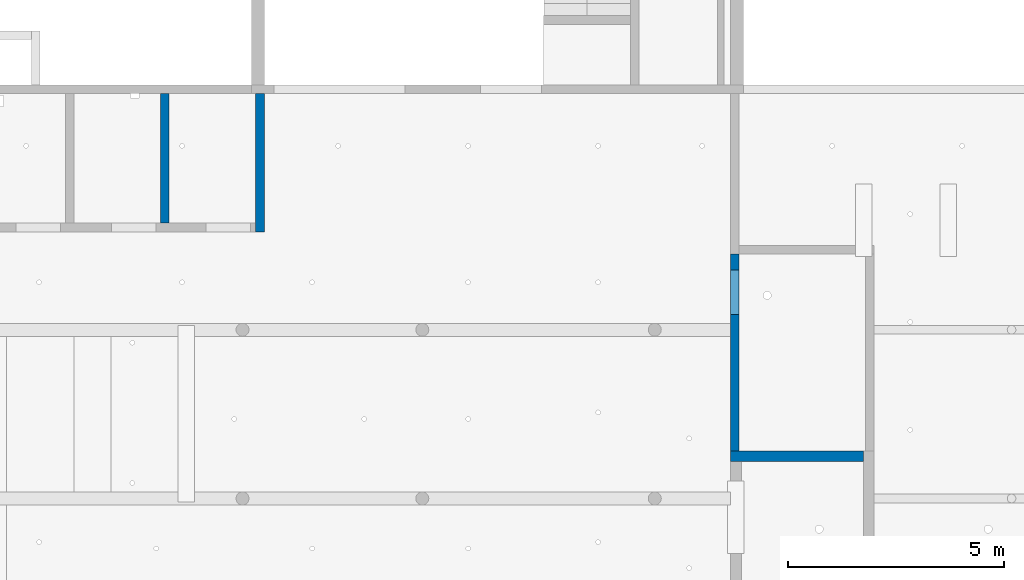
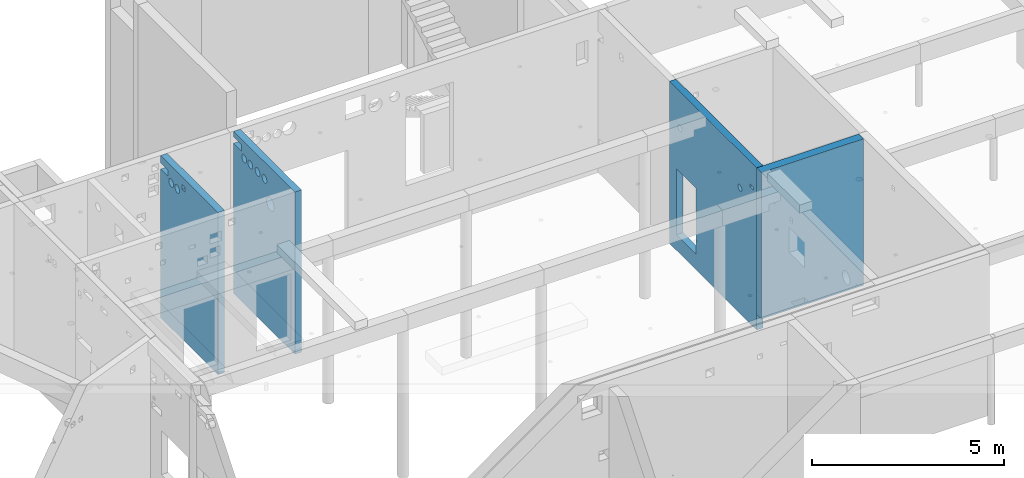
# One storey, part 25 of 28: 4 walls, 15 openings.
"""IFC2X3 building model written with IfcOpenShell, lengths in metres."""

import ifcopenshell
import ifcopenshell.guid

model = None  # the IFC model being written
_history = None  # IfcOwnerHistory: only IFC2X3 demands one
_inside = {}  # id of a spatial element -> (the spatial element, [elements in it])
_under = {}  # id of a project, library or spatial element -> (it, [spatial elements below it])
_declared = {}  # id of a project -> (the project, [libraries it declares])
_typed = {}  # id of a type object -> (the type object, [elements of that type])
_made_of = {}  # id of a material, layer set ... -> (it, [elements and type objects made of it])


def new_model(schema):
    """Start an empty IFC model of exactly this schema.

    Asked for "IFC4X3", IfcOpenShell would pick the latest addendum, in which some entities
    have other attributes; the version numbers below select the first issue.
    IFC2X3 requires an IfcOwnerHistory on every rooted entity: one is made here for all.
    """
    global model, _history
    if schema == "IFC4X3":
        model = ifcopenshell.file(schema_version=(4, 3, 0, 0))
    else:
        model = ifcopenshell.file(schema=schema)
    _inside.clear()
    _under.clear()
    _declared.clear()
    _typed.clear()
    _made_of.clear()
    _history = None
    if model.schema == "IFC2X3":
        org = make("IfcOrganization", Name="unknown")
        user = make(
            "IfcPersonAndOrganization",
            ThePerson=make("IfcPerson", FamilyName="unknown"),
            TheOrganization=org,
        )
        app = make(
            "IfcApplication",
            ApplicationDeveloper=org,
            Version="unknown",
            ApplicationFullName="unknown",
            ApplicationIdentifier="unknown",
        )
        _history = make(
            "IfcOwnerHistory",
            OwningUser=user,
            OwningApplication=app,
            ChangeAction="ADDED",
            CreationDate=0,
        )
    return model


def make(cls, **values):
    """One entity of the class cls with the attributes given. An attribute that is None is left unset."""
    return model.create_entity(
        cls, **{name: value for name, value in values.items() if value is not None}
    )


def entity(cls, *values):
    """Any entity or typed value of the class cls, its attributes in the order of the schema. None: left unset."""
    e = model.create_entity(cls)
    for i, value in enumerate(values):
        if value is not None:
            e[i] = value
    return e


def rooted(cls, **values):
    """An entity with a GlobalId (a new one), such as an element, a storey or a relation."""
    return make(cls, GlobalId=ifcopenshell.guid.new(), OwnerHistory=_history, **values)


def si_unit(unit_type, name, prefix=None):
    """IfcSIUnit, for example si_unit("LENGTHUNIT", "METRE", prefix="MILLI")."""
    return make("IfcSIUnit", UnitType=unit_type, Prefix=prefix, Name=name)


def converted_unit(unit_type, name, factor, base, dimensions=None, offset=None):
    """IfcConversionBasedUnit, such as the inch: factor (a typed value) times the base unit."""
    return make(
        "IfcConversionBasedUnit"
        if offset is None
        else "IfcConversionBasedUnitWithOffset",
        ConversionOffset=offset,
        Dimensions=None
        if dimensions is None
        else entity("IfcDimensionalExponents", *dimensions),
        UnitType=unit_type,
        Name=name,
        ConversionFactor=make(
            "IfcMeasureWithUnit", ValueComponent=factor, UnitComponent=base
        ),
    )


def assignment(units):
    """IfcUnitAssignment: the units of a project."""
    return None if units is None else make("IfcUnitAssignment", Units=units)


def point(xyz):
    """IfcCartesianPoint."""
    return None if xyz is None else make("IfcCartesianPoint", Coordinates=xyz)


def direction(xyz):
    """IfcDirection."""
    return None if xyz is None else make("IfcDirection", DirectionRatios=xyz)


def frame(location, z_axis=None, x_axis=None):
    """IfcAxis2Placement3D, a coordinate frame: its origin and axes. An axis left out is left unset."""
    return make(
        "IfcAxis2Placement3D",
        Location=point(location),
        Axis=direction(z_axis),
        RefDirection=direction(x_axis),
    )


def frame_2d(location, x_axis=None):
    """IfcAxis2Placement2D, a coordinate frame in the plane: its origin and x axis."""
    return make(
        "IfcAxis2Placement2D", Location=point(location), RefDirection=direction(x_axis)
    )


def origin():
    """The frame at (0, 0, 0) with its axes left unset."""
    return frame((0.0, 0.0, 0.0))


def origin_with_axes():
    """The frame at (0, 0, 0) with the z axis (0, 0, 1) and the x axis (1, 0, 0) written out."""
    return frame((0.0, 0.0, 0.0), z_axis=(0.0, 0.0, 1.0), x_axis=(1.0, 0.0, 0.0))


def place(relative_to, where):
    """IfcLocalPlacement: puts the frame where relative to a parent placement (None: the world)."""
    return make(
        "IfcLocalPlacement", PlacementRelTo=relative_to, RelativePlacement=where
    )


def context(
    kind, dimensions, precision=None, world=None, true_north=None, identifier=None
):
    """IfcGeometricRepresentationContext, for example the 3D "Model" context."""
    return make(
        "IfcGeometricRepresentationContext",
        ContextIdentifier=identifier,
        ContextType=kind,
        CoordinateSpaceDimension=dimensions,
        Precision=precision,
        WorldCoordinateSystem=world,
        TrueNorth=true_north,
    )


def subcontext(parent, identifier, kind, view, scale=None):
    """IfcGeometricRepresentationSubContext, for example "Body" below "Model"."""
    return make(
        "IfcGeometricRepresentationSubContext",
        ContextIdentifier=identifier,
        ContextType=kind,
        ParentContext=parent,
        TargetScale=scale,
        TargetView=view,
    )


def project(units=None, contexts=None):
    """IfcProject with its units and contexts."""
    return rooted(
        "IfcProject",
        Name="project",
        RepresentationContexts=contexts,
        UnitsInContext=assignment(units),
    )


def spatial(cls, under=None, at=None, **own):
    """A site, building, storey or space (cls), placed at a placement, below another one or the project."""
    s = rooted(cls, ObjectPlacement=at, **own)
    if under is not None:
        _under.setdefault(under.id(), (under, []))[1].append(s)
    return s


def polyline(points):
    """IfcPolyline through the points."""
    return make("IfcPolyline", Points=[point(p) for p in points])


def profile(cls, at=None, kind="AREA", **sizes):
    """A parametric profile (cls). Its sizes go by their IFC names, for example OverallWidth=200.0."""
    return make(cls, ProfileType=kind, Position=at, **sizes)


def rectangle(**sizes):
    """IfcRectangleProfileDef."""
    return profile("IfcRectangleProfileDef", **sizes)


def outline(outer, holes=None, kind="AREA"):
    """IfcArbitraryClosedProfileDef: a profile drawn as a closed curve; with holes, ...WithVoids."""
    if holes is None:
        return make("IfcArbitraryClosedProfileDef", ProfileType=kind, OuterCurve=outer)
    return make(
        "IfcArbitraryProfileDefWithVoids",
        ProfileType=kind,
        OuterCurve=outer,
        InnerCurves=holes,
    )


def extrude(swept, where, along, depth):
    """IfcExtrudedAreaSolid: the profile swept, set in the frame where, extruded along a direction by depth."""
    return make(
        "IfcExtrudedAreaSolid",
        SweptArea=swept,
        Position=where,
        ExtrudedDirection=direction(along),
        Depth=depth,
    )


def shape(context_of_items, identifier, shape_type, items):
    """IfcShapeRepresentation: the items that make up one representation, for example the "Body"."""
    return make(
        "IfcShapeRepresentation",
        ContextOfItems=context_of_items,
        RepresentationIdentifier=identifier,
        RepresentationType=shape_type,
        Items=items,
    )


def material(Name=None, Category=None):
    """IfcMaterial."""
    return make("IfcMaterial", Name=Name, Category=Category)


def layer(
    of_material, thickness, ventilated=None, Name=None, Category=None, Priority=None
):
    """IfcMaterialLayer: one layer of a wall or slab, of a material (None: an air gap)."""
    return make(
        "IfcMaterialLayer",
        Material=of_material,
        LayerThickness=thickness,
        IsVentilated=ventilated,
        Name=Name,
        Category=Category,
        Priority=Priority,
    )


def layer_set(layers, Name=None):
    """IfcMaterialLayerSet."""
    return make("IfcMaterialLayerSet", MaterialLayers=layers, LayerSetName=Name)


def layer_usage(for_layer_set, set_direction, sense, offset, extent=None):
    """IfcMaterialLayerSetUsage: how a layer set lies in its element."""
    return make(
        "IfcMaterialLayerSetUsage",
        ForLayerSet=for_layer_set,
        LayerSetDirection=set_direction,
        DirectionSense=sense,
        OffsetFromReferenceLine=offset,
        ReferenceExtent=extent,
    )


def made_of(thing, what):
    """Note that an element or type object is made of a material, layer set ...; save() writes the relation."""
    if what is not None:
        _made_of.setdefault(what.id(), (what, []))[1].append(thing)
    return thing


def element(
    cls,
    number,
    at=None,
    inside=None,
    cuts=None,
    type_object=None,
    material=None,
    context=None,
    identifier="Body",
    shape_type=None,
    held_by="IfcProductDefinitionShape",
    body=None,
    shapes=None,
    **own,
):
    """One element of the class cls, such as IfcWall. Its Tag is "e" and its number.

    at: its placement. inside: the storey or other place that contains it. cuts: it is an
    opening in that element (IfcRelVoidsElement). A single representation is given by context,
    identifier, shape_type and body (its items); several are given by shapes. held_by: the class
    of the entity that holds the representations. save() writes the other relations.
    """
    e = rooted(cls, Tag="e%d" % number, ObjectPlacement=at, **own)
    if body is not None:
        shapes = [shape(context, identifier, shape_type, body)]
    if shapes is not None:
        e.Representation = make(held_by, Representations=shapes)
    if inside is not None:
        _inside.setdefault(inside.id(), (inside, []))[1].append(e)
    if cuts is not None:
        rooted(
            "IfcRelVoidsElement", RelatingBuildingElement=cuts, RelatedOpeningElement=e
        )
    if type_object is not None:
        _typed.setdefault(type_object.id(), (type_object, []))[1].append(e)
    return made_of(e, material)


def aggregate(whole, parts):
    """IfcRelAggregates: a whole, such as a stair, and the parts it consists of."""
    return rooted("IfcRelAggregates", RelatingObject=whole, RelatedObjects=parts)


def save(model, path):
    """Write the relations noted so far, then the file.

    IfcRelAggregates (storeys below a building ...), IfcRelContainedInSpatialStructure (elements
    in a storey), IfcRelDefinesByType, IfcRelAssociatesMaterial and IfcRelDeclares: one each for
    every whole, place, type object, material and project.
    """
    for whole, parts in _under.values():
        aggregate(whole, parts)
    for where, things in _inside.values():
        rooted(
            "IfcRelContainedInSpatialStructure",
            RelatedElements=things,
            RelatingStructure=where,
        )
    for kind, things in _typed.values():
        rooted("IfcRelDefinesByType", RelatedObjects=things, RelatingType=kind)
    for what, things in _made_of.values():
        rooted("IfcRelAssociatesMaterial", RelatedObjects=things, RelatingMaterial=what)
    for by, libraries in _declared.values():
        rooted("IfcRelDeclares", RelatingContext=by, RelatedDefinitions=libraries)
    model.write(path)


model = new_model("IFC2X3")

# Units and contexts
model_context = context("Model", 3, precision=1e-05, world=origin(), true_north=direction((-0.407059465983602, -0.913401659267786)))
body_context = subcontext(model_context, "Body", "Model", "MODEL_VIEW")
ifc_project = project(units=[si_unit("LENGTHUNIT", "METRE"), si_unit("AREAUNIT", "SQUARE_METRE"), si_unit("VOLUMEUNIT", "CUBIC_METRE"), si_unit("MASSUNIT", "GRAM", prefix="KILO"), converted_unit("PLANEANGLEUNIT", "DEGREE", entity("IfcPlaneAngleMeasure", 0.0174532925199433), si_unit("PLANEANGLEUNIT", "RADIAN"), dimensions=[0, 0, 0, 0, 0, 0, 0])], contexts=[model_context])

# Site, buildings, storey
site_placement = place(None, origin())
site = spatial("IfcSite", under=ifc_project, at=site_placement, Name="Site", CompositionType="ELEMENT")
building_1_placement = place(site_placement, origin())
building_1 = spatial("IfcBuilding", under=site, at=building_1_placement, Name="Site", CompositionType="COMPLEX")
building_2_placement = place(building_1_placement, origin())
building_2 = spatial("IfcBuilding", under=building_1, at=building_2_placement, Name="Bâtiments", CompositionType="ELEMENT")
storey_placement = place(building_2_placement, frame((0.0, 0.0, -5.3)))
storey = spatial("IfcBuildingStorey", under=building_2, at=storey_placement, Name="SOUS-SOL", CompositionType="ELEMENT", Elevation=-5.3)

# Wall
ifc_material_1 = material(Name="Béton")
ifc_layer_1 = layer(ifc_material_1, 0.25)
ifc_layer_set_1 = layer_set([ifc_layer_1])
ifc_layer_usage_1 = layer_usage(ifc_layer_set_1, "AXIS2", "POSITIVE", -0.1)
wall_1_placement = place(storey_placement, frame((45.2426440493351, 0.703810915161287, 0.5), z_axis=(0.0, 0.0, 1.0), x_axis=(1.0, -7.40135930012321e-16, 0.0)))
element("IfcWallStandardCase", 1, at=wall_1_placement, inside=storey, material=ifc_layer_usage_1, context=body_context, shape_type="SweptSolid", body=[
    extrude(rectangle(XDim=3.07205293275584, YDim=0.25, at=frame_2d((1.53602646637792, 0.125), x_axis=(1.0, 0.0))), origin_with_axes(), (0.0, 0.0, 1.0), 4.66),
])

# Wall, openings
ifc_material_2 = material(Name="Béton")
ifc_layer_2 = layer(ifc_material_2, 0.2)
ifc_layer_set_2 = layer_set([ifc_layer_2])
ifc_layer_usage_2 = layer_usage(ifc_layer_set_2, "AXIS2", "POSITIVE", -0.1)
wall_2_placement = place(storey_placement, frame((34.4680907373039, 6.01706783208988, 0.0), z_axis=(0.0, 0.0, 1.0), x_axis=(0.0, 1.0, 0.0)))
wall_2 = element("IfcWallStandardCase", 2, at=wall_2_placement, inside=storey, material=ifc_layer_usage_2, context=body_context, shape_type="SweptSolid", body=[
    extrude(rectangle(XDim=3.19331947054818, YDim=0.2, at=frame_2d((1.59665973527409, 0.1), x_axis=(1.0, 0.0))), origin_with_axes(), (0.0, 0.0, 1.0), 5.16),
])
opening_1_placement = place(wall_2_placement, frame((1.07527756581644, 0.0, 3.8), z_axis=(0.0, 1.0, 0.0), x_axis=(0.0, 0.0, 1.0)))
element("IfcOpeningElement", 3, at=opening_1_placement, cuts=wall_2, Name="CVC-077", ObjectType="Opening", context=body_context, shape_type="SweptSolid", body=[
    extrude(outline(polyline([(0.199999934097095, 0.0), (0.179094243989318, 0.00109562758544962), (0.1584176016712, 0.00437049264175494), (0.138196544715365, 0.00978871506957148), (0.118652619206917, 0.0172909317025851), (0.0999999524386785, 0.026794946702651), (0.0824429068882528, 0.0381966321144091), (0.0661738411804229, 0.0513710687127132), (0.0513710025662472, 0.0661739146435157), (0.0381965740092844, 0.0824429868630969), (0.0267948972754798, 0.100000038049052), (0.0172908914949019, 0.118652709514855), (0.00978868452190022, 0.138196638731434), (0.00437047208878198, 0.158417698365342), (0.00109561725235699, 0.179094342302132), (0.0, 0.200000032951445), (0.00109562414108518, 0.220905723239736), (0.00437048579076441, 0.241582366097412), (0.009788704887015, 0.261803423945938), (0.0172909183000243, 0.281347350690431), (0.0267949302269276, 0.300000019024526), (0.0381966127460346, 0.317557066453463), (0.051371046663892, 0.333826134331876), (0.0661738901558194, 0.348628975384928), (0.0824429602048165, 0.361803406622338), (0.100000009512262, 0.373205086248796), (0.11865267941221, 0.382709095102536), (0.138196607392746, 0.390211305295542), (0.158417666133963, 0.395629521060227), (0.179094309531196, 0.398904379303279), (0.199999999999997, 0.4), (0.220905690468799, 0.398904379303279), (0.241582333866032, 0.395629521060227), (0.261803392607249, 0.390211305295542), (0.281347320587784, 0.382709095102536), (0.299999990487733, 0.373205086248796), (0.317557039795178, 0.361803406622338), (0.333826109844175, 0.348628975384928), (0.348628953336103, 0.333826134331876), (0.36180338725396, 0.317557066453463), (0.373205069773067, 0.300000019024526), (0.38270908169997, 0.281347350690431), (0.39021129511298, 0.261803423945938), (0.39562951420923, 0.241582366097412), (0.398904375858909, 0.220905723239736), (0.399999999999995, 0.200000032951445), (0.398904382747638, 0.179094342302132), (0.395629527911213, 0.158417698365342), (0.390211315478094, 0.138196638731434), (0.382709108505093, 0.118652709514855), (0.373205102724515, 0.100000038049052), (0.36180342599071, 0.0824429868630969), (0.348628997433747, 0.0661739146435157), (0.333826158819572, 0.0513710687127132), (0.317557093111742, 0.0381966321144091), (0.300000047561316, 0.026794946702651), (0.281347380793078, 0.0172909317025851), (0.26180345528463, 0.00978871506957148), (0.241582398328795, 0.00437049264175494), (0.220905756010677, 0.00109562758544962), (0.199999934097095, 0.0)])), origin_with_axes(), (0.0, 0.0, 1.0), 0.2),
])
opening_2_placement = place(wall_2_placement, frame((1.46013137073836, 3.49065085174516e-08, 4.5), z_axis=(0.0, 1.0, 0.0), x_axis=(0.0, 0.0, 1.0)))
element("IfcOpeningElement", 4, at=opening_2_placement, cuts=wall_2, Name="CVC-076", ObjectType="Opening", context=body_context, shape_type="SweptSolid", body=[
    extrude(outline(polyline([(0.124999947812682, 0.0), (0.111933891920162, 0.000684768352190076), (0.0990109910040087, 0.00273156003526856), (0.086372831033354, 0.00611794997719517), (0.0741578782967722, 0.0108068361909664), (0.0624999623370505, 0.0167468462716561), (0.0515268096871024, 0.0238729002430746), (0.0413586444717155, 0.0321069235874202), (0.0321068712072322, 0.041358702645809), (0.0238728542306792, 0.0515268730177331), (0.0167468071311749, 0.0625000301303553), (0.0108068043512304, 0.0741579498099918), (0.00611792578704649, 0.0863729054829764), (0.00273154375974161, 0.099011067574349), (0.000684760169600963, 0.111933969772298), (0.0, 0.125000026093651), (0.000684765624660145, 0.138066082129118), (0.00273155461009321, 0.150988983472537), (0.00611794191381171, 0.163627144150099), (0.010806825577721, 0.175842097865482), (0.0167468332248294, 0.187500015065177), (0.0238728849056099, 0.198473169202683), (0.0321069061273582, 0.208641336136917), (0.0413586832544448, 0.217893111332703), (0.0515268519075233, 0.226127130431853), (0.0625000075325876, 0.233253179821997), (0.0741579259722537, 0.239193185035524), (0.0863728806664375, 0.24388206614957), (0.0990110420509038, 0.247268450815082), (0.111933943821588, 0.24931523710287), (0.124999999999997, 0.25), (0.138066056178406, 0.24931523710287), (0.150988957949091, 0.247268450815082), (0.163627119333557, 0.24388206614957), (0.175842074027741, 0.239193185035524), (0.187499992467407, 0.233253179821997), (0.198473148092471, 0.226127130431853), (0.20864131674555, 0.217893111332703), (0.217893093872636, 0.208641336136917), (0.226127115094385, 0.198473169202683), (0.233253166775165, 0.187500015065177), (0.239193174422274, 0.175842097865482), (0.243882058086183, 0.163627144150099), (0.247268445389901, 0.150988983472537), (0.249315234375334, 0.138066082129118), (0.249999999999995, 0.125000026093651), (0.249315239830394, 0.111933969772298), (0.247268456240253, 0.099011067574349), (0.243882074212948, 0.0863729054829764), (0.239193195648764, 0.0741579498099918), (0.23325319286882, 0.0625000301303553), (0.226127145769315, 0.0515268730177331), (0.217893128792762, 0.041358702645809), (0.208641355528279, 0.0321069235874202), (0.198473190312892, 0.0238729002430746), (0.187500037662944, 0.0167468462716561), (0.175842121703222, 0.0108068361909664), (0.163627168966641, 0.00611794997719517), (0.150989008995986, 0.00273156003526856), (0.138066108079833, 0.000684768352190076), (0.124999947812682, 0.0)])), origin_with_axes(), (0.0, 0.0, 1.0), 0.2),
])
opening_3_placement = place(wall_2_placement, frame((1.82089109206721, 0.0, 4.5), z_axis=(0.0, 1.0, 0.0), x_axis=(0.0, 0.0, 1.0)))
element("IfcOpeningElement", 5, at=opening_3_placement, cuts=wall_2, Name="CVC-075", ObjectType="Opening", context=body_context, shape_type="SweptSolid", body=[
    extrude(outline(polyline([(0.124999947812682, 0.0), (0.111933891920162, 0.000684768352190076), (0.0990109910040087, 0.00273156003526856), (0.086372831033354, 0.00611794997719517), (0.0741578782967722, 0.0108068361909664), (0.0624999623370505, 0.0167468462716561), (0.0515268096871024, 0.0238729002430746), (0.0413586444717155, 0.0321069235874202), (0.0321068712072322, 0.0413587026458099), (0.0238728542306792, 0.0515268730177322), (0.0167468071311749, 0.0625000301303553), (0.0108068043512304, 0.0741579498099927), (0.00611792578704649, 0.0863729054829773), (0.00273154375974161, 0.099011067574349), (0.000684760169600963, 0.111933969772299), (0.0, 0.125000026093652), (0.000684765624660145, 0.138066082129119), (0.00273155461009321, 0.150988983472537), (0.00611794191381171, 0.163627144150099), (0.010806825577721, 0.175842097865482), (0.0167468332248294, 0.187500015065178), (0.0238728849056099, 0.198473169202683), (0.0321069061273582, 0.208641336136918), (0.0413586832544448, 0.217893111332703), (0.0515268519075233, 0.226127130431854), (0.0625000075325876, 0.233253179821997), (0.0741579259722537, 0.239193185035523), (0.0863728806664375, 0.24388206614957), (0.0990110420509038, 0.247268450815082), (0.111933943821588, 0.249315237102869), (0.124999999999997, 0.25), (0.138066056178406, 0.249315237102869), (0.150988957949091, 0.247268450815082), (0.163627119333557, 0.24388206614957), (0.175842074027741, 0.239193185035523), (0.187499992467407, 0.233253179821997), (0.198473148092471, 0.226127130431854), (0.20864131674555, 0.217893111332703), (0.217893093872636, 0.208641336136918), (0.226127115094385, 0.198473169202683), (0.233253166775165, 0.187500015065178), (0.239193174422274, 0.175842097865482), (0.243882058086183, 0.163627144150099), (0.247268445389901, 0.150988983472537), (0.249315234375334, 0.138066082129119), (0.249999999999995, 0.125000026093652), (0.249315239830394, 0.111933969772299), (0.247268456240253, 0.099011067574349), (0.243882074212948, 0.0863729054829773), (0.239193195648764, 0.0741579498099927), (0.23325319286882, 0.0625000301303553), (0.226127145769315, 0.0515268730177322), (0.217893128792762, 0.0413587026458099), (0.208641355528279, 0.0321069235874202), (0.198473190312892, 0.0238729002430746), (0.187500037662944, 0.0167468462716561), (0.175842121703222, 0.0108068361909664), (0.163627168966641, 0.00611794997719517), (0.150989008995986, 0.00273156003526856), (0.138066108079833, 0.000684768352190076), (0.124999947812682, 0.0)])), origin_with_axes(), (0.0, 0.0, 1.0), 0.2),
])
opening_4_placement = place(wall_2_placement, frame((2.20089109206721, 0.0, 4.5), z_axis=(0.0, 1.0, 0.0), x_axis=(0.0, 0.0, 1.0)))
element("IfcOpeningElement", 6, at=opening_4_placement, cuts=wall_2, Name="CVC-074", ObjectType="Opening", context=body_context, shape_type="SweptSolid", body=[
    extrude(outline(polyline([(0.124999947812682, 0.0), (0.111933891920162, 0.000684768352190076), (0.0990109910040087, 0.00273156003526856), (0.086372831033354, 0.00611794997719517), (0.0741578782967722, 0.0108068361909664), (0.0624999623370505, 0.0167468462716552), (0.0515268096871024, 0.0238729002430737), (0.0413586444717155, 0.0321069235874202), (0.0321068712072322, 0.0413587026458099), (0.0238728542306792, 0.0515268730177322), (0.0167468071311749, 0.0625000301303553), (0.0108068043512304, 0.0741579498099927), (0.00611792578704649, 0.0863729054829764), (0.00273154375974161, 0.099011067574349), (0.000684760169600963, 0.111933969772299), (0.0, 0.125000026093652), (0.000684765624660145, 0.138066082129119), (0.00273155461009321, 0.150988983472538), (0.00611794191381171, 0.163627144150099), (0.010806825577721, 0.175842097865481), (0.0167468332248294, 0.187500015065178), (0.0238728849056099, 0.198473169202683), (0.0321069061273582, 0.208641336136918), (0.0413586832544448, 0.217893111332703), (0.0515268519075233, 0.226127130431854), (0.0625000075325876, 0.233253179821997), (0.0741579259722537, 0.239193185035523), (0.0863728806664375, 0.24388206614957), (0.0990110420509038, 0.247268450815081), (0.111933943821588, 0.24931523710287), (0.124999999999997, 0.25), (0.138066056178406, 0.24931523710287), (0.150988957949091, 0.247268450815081), (0.163627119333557, 0.24388206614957), (0.175842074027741, 0.239193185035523), (0.187499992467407, 0.233253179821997), (0.198473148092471, 0.226127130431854), (0.20864131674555, 0.217893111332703), (0.217893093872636, 0.208641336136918), (0.226127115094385, 0.198473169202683), (0.233253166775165, 0.187500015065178), (0.239193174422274, 0.175842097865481), (0.243882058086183, 0.163627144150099), (0.247268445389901, 0.150988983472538), (0.249315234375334, 0.138066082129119), (0.249999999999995, 0.125000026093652), (0.249315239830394, 0.111933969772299), (0.247268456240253, 0.099011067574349), (0.243882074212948, 0.0863729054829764), (0.239193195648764, 0.0741579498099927), (0.23325319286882, 0.0625000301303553), (0.226127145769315, 0.0515268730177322), (0.217893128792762, 0.0413587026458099), (0.208641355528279, 0.0321069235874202), (0.198473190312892, 0.0238729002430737), (0.187500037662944, 0.0167468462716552), (0.175842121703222, 0.0108068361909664), (0.163627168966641, 0.00611794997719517), (0.150989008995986, 0.00273156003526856), (0.138066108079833, 0.000684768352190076), (0.124999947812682, 0.0)])), origin_with_axes(), (0.0, 0.0, 1.0), 0.2),
])
opening_5_placement = place(wall_2_placement, frame((2.51708956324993, 0.0, 4.5), z_axis=(0.0, 1.0, 0.0), x_axis=(0.0, 0.0, 1.0)))
element("IfcOpeningElement", 7, at=opening_5_placement, cuts=wall_2, Name="CVC-073", ObjectType="Opening", context=body_context, shape_type="SweptSolid", body=[
    extrude(outline(polyline([(0.124999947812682, 0.0), (0.111933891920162, 0.000684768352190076), (0.0990109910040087, 0.00273156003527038), (0.086372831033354, 0.00611794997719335), (0.0741578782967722, 0.0108068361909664), (0.0624999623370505, 0.0167468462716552), (0.0515268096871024, 0.0238729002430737), (0.0413586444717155, 0.0321069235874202), (0.0321068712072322, 0.0413587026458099), (0.0238728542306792, 0.0515268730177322), (0.0167468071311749, 0.0625000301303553), (0.0108068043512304, 0.0741579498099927), (0.00611792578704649, 0.0863729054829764), (0.00273154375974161, 0.099011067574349), (0.000684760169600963, 0.111933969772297), (0.0, 0.125000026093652), (0.000684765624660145, 0.138066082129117), (0.00273155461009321, 0.150988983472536), (0.00611794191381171, 0.163627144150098), (0.010806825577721, 0.175842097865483), (0.0167468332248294, 0.187500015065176), (0.0238728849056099, 0.198473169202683), (0.0321069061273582, 0.208641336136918), (0.0413586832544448, 0.217893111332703), (0.0515268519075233, 0.226127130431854), (0.0625000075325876, 0.233253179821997), (0.0741579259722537, 0.239193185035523), (0.0863728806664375, 0.24388206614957), (0.0990110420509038, 0.247268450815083), (0.111933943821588, 0.24931523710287), (0.124999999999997, 0.25), (0.138066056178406, 0.24931523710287), (0.150988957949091, 0.247268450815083), (0.163627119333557, 0.24388206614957), (0.175842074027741, 0.239193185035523), (0.187499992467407, 0.233253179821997), (0.198473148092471, 0.226127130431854), (0.20864131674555, 0.217893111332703), (0.217893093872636, 0.208641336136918), (0.226127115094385, 0.198473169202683), (0.233253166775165, 0.187500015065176), (0.239193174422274, 0.175842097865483), (0.243882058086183, 0.163627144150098), (0.247268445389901, 0.150988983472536), (0.249315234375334, 0.138066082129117), (0.249999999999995, 0.125000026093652), (0.249315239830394, 0.111933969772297), (0.247268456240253, 0.099011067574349), (0.243882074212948, 0.0863729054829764), (0.239193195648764, 0.0741579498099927), (0.23325319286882, 0.0625000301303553), (0.226127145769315, 0.0515268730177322), (0.217893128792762, 0.0413587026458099), (0.208641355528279, 0.0321069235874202), (0.198473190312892, 0.0238729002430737), (0.187500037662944, 0.0167468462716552), (0.175842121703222, 0.0108068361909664), (0.163627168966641, 0.00611794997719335), (0.150989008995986, 0.00273156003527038), (0.138066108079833, 0.000684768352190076), (0.124999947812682, 0.0)])), origin_with_axes(), (0.0, 0.0, 1.0), 0.2),
])
opening_6_placement = place(wall_2_placement, frame((2.79331947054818, 0.0, 4.78), z_axis=(0.0, 1.0, 0.0), x_axis=(0.0, 0.0, 1.0)))
element("IfcOpeningElement", 8, at=opening_6_placement, cuts=wall_2, Name="TE-026", ObjectType="Opening", context=body_context, shape_type="SweptSolid", body=[
    extrude(outline(polyline([(0.0, 0.4), (0.2, 0.4), (0.2, 0.0), (0.0, 0.0), (0.0, 0.4)])), origin_with_axes(), (0.0, 0.0, 1.0), 0.2),
])

ifc_material_3 = material(Name="Béton")
ifc_layer_3 = layer(ifc_material_3, 0.200000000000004)
ifc_layer_set_3 = layer_set([ifc_layer_3])
ifc_layer_usage_3 = layer_usage(ifc_layer_set_3, "AXIS2", "POSITIVE", -0.1)
wall_3_placement = place(storey_placement, frame((32.2688387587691, 6.21706783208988, 0.0), z_axis=(0.0, 0.0, 1.0), x_axis=(0.0, 1.0, 0.0)))
wall_3 = element("IfcWallStandardCase", 9, at=wall_3_placement, inside=storey, material=ifc_layer_usage_3, context=body_context, shape_type="SweptSolid", body=[
    extrude(rectangle(XDim=2.99331947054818, YDim=0.200000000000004, at=frame_2d((1.49665973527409, 0.100000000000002), x_axis=(1.0, 0.0))), origin_with_axes(), (0.0, 0.0, 1.0), 5.16),
])
opening_7_placement = place(wall_3_placement, frame((2.79331947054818, 0.0, 4.73), z_axis=(0.0, 1.0, 0.0), x_axis=(0.0, 0.0, 1.0)))
element("IfcOpeningElement", 10, at=opening_7_placement, cuts=wall_3, Name="TE-024", ObjectType="Opening", context=body_context, shape_type="SweptSolid", body=[
    extrude(outline(polyline([(0.0, 0.2), (0.2, 0.2), (0.2, 0.0), (0.0, 0.0), (0.0, 0.2)])), origin_with_axes(), (0.0, 0.0, 1.0), 0.200000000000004),
])
opening_8_placement = place(wall_3_placement, frame((2.00089109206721, 0.0, 4.5), z_axis=(0.0, 1.0, 0.0), x_axis=(0.0, 0.0, 1.0)))
element("IfcOpeningElement", 11, at=opening_8_placement, cuts=wall_3, Name="CVC-071", ObjectType="Opening", context=body_context, shape_type="SweptSolid", body=[
    extrude(outline(polyline([(0.124999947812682, 0.0), (0.111933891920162, 0.000684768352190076), (0.0990109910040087, 0.00273156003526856), (0.086372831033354, 0.00611794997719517), (0.0741578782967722, 0.0108068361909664), (0.0624999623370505, 0.0167468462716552), (0.0515268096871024, 0.0238729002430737), (0.0413586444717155, 0.0321069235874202), (0.0321068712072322, 0.0413587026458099), (0.0238728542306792, 0.0515268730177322), (0.0167468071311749, 0.0625000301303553), (0.0108068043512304, 0.0741579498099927), (0.00611792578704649, 0.0863729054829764), (0.00273154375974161, 0.099011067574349), (0.000684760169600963, 0.111933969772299), (0.0, 0.125000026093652), (0.000684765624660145, 0.138066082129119), (0.00273155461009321, 0.150988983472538), (0.00611794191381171, 0.163627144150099), (0.010806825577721, 0.175842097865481), (0.0167468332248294, 0.187500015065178), (0.0238728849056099, 0.198473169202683), (0.0321069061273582, 0.208641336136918), (0.0413586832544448, 0.217893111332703), (0.0515268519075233, 0.226127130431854), (0.0625000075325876, 0.233253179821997), (0.0741579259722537, 0.239193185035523), (0.0863728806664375, 0.24388206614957), (0.0990110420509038, 0.247268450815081), (0.111933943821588, 0.24931523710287), (0.124999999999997, 0.25), (0.138066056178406, 0.24931523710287), (0.150988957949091, 0.247268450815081), (0.163627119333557, 0.24388206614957), (0.175842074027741, 0.239193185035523), (0.187499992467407, 0.233253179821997), (0.198473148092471, 0.226127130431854), (0.20864131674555, 0.217893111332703), (0.217893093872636, 0.208641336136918), (0.226127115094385, 0.198473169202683), (0.233253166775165, 0.187500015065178), (0.239193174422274, 0.175842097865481), (0.243882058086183, 0.163627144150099), (0.247268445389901, 0.150988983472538), (0.249315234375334, 0.138066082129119), (0.249999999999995, 0.125000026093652), (0.249315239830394, 0.111933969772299), (0.247268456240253, 0.099011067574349), (0.243882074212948, 0.0863729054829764), (0.239193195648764, 0.0741579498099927), (0.23325319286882, 0.0625000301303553), (0.226127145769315, 0.0515268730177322), (0.217893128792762, 0.0413587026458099), (0.208641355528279, 0.0321069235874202), (0.198473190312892, 0.0238729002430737), (0.187500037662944, 0.0167468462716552), (0.175842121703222, 0.0108068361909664), (0.163627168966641, 0.00611794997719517), (0.150989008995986, 0.00273156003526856), (0.138066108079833, 0.000684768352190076), (0.124999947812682, 0.0)])), origin_with_axes(), (0.0, 0.0, 1.0), 0.2),
])
opening_9_placement = place(wall_3_placement, frame((2.31708956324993, 0.0, 4.5), z_axis=(0.0, 1.0, 0.0), x_axis=(0.0, 0.0, 1.0)))
element("IfcOpeningElement", 12, at=opening_9_placement, cuts=wall_3, Name="CVC-072", ObjectType="Opening", context=body_context, shape_type="SweptSolid", body=[
    extrude(outline(polyline([(0.124999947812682, 0.0), (0.111933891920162, 0.000684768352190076), (0.0990109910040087, 0.00273156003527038), (0.086372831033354, 0.00611794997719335), (0.0741578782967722, 0.0108068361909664), (0.0624999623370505, 0.0167468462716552), (0.0515268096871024, 0.0238729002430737), (0.0413586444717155, 0.0321069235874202), (0.0321068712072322, 0.0413587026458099), (0.0238728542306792, 0.0515268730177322), (0.0167468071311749, 0.0625000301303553), (0.0108068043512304, 0.0741579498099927), (0.00611792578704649, 0.0863729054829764), (0.00273154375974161, 0.099011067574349), (0.000684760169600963, 0.111933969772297), (0.0, 0.125000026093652), (0.000684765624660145, 0.138066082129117), (0.00273155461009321, 0.150988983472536), (0.00611794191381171, 0.163627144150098), (0.010806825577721, 0.175842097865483), (0.0167468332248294, 0.187500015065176), (0.0238728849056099, 0.198473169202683), (0.0321069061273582, 0.208641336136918), (0.0413586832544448, 0.217893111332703), (0.0515268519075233, 0.226127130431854), (0.0625000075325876, 0.233253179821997), (0.0741579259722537, 0.239193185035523), (0.0863728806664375, 0.24388206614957), (0.0990110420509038, 0.247268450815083), (0.111933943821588, 0.24931523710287), (0.124999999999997, 0.25), (0.138066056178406, 0.24931523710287), (0.150988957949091, 0.247268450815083), (0.163627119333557, 0.24388206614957), (0.175842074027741, 0.239193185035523), (0.187499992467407, 0.233253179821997), (0.198473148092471, 0.226127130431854), (0.20864131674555, 0.217893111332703), (0.217893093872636, 0.208641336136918), (0.226127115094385, 0.198473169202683), (0.233253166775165, 0.187500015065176), (0.239193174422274, 0.175842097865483), (0.243882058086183, 0.163627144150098), (0.247268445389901, 0.150988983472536), (0.249315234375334, 0.138066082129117), (0.249999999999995, 0.125000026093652), (0.249315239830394, 0.111933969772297), (0.247268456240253, 0.099011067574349), (0.243882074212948, 0.0863729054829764), (0.239193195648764, 0.0741579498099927), (0.23325319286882, 0.0625000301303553), (0.226127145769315, 0.0515268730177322), (0.217893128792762, 0.0413587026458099), (0.208641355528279, 0.0321069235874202), (0.198473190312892, 0.0238729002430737), (0.187500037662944, 0.0167468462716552), (0.175842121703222, 0.0108068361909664), (0.163627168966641, 0.00611794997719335), (0.150989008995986, 0.00273156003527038), (0.138066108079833, 0.000684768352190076), (0.124999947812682, 0.0)])), origin_with_axes(), (0.0, 0.0, 1.0), 0.200000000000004),
])
opening_10_placement = place(wall_3_placement, frame((2.59331947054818, 0.0, 4.73), z_axis=(0.0, 1.0, 0.0), x_axis=(0.0, 0.0, 1.0)))
element("IfcOpeningElement", 13, at=opening_10_placement, cuts=wall_3, Name="TE-025", ObjectType="Opening", context=body_context, shape_type="SweptSolid", body=[
    extrude(outline(polyline([(0.0, 0.2), (0.2, 0.2), (0.2, 0.0), (0.0, 0.0), (0.0, 0.2)])), origin_with_axes(), (0.0, 0.0, 1.0), 0.200000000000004),
])
opening_11_placement = place(wall_3_placement, frame((1.71427394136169, 0.0, 4.77), z_axis=(0.0, 1.0, 0.0), x_axis=(0.0, 0.0, 1.0)))
element("IfcOpeningElement", 14, at=opening_11_placement, cuts=wall_3, Name="PB-010", ObjectType="Opening", context=body_context, shape_type="SweptSolid", body=[
    extrude(outline(polyline([(0.0, 0.15), (0.15, 0.15), (0.15, 0.0), (0.0, 0.0), (0.0, 0.15)])), origin_with_axes(), (0.0, 0.0, 1.0), 0.200000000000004),
])

ifc_material_4 = material(Name="Béton")
ifc_layer_4 = layer(ifc_material_4, 0.199998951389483)
ifc_layer_set_4 = layer_set([ifc_layer_4])
ifc_layer_usage_4 = layer_usage(ifc_layer_set_4, "AXIS2", "POSITIVE", 0.0)
wall_4_placement = place(storey_placement, frame((45.4426440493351, 0.953810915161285, 0.0), z_axis=(0.0, 0.0, 1.0), x_axis=(-1.6009925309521e-15, 1.0, 0.0)))
wall_4 = element("IfcWallStandardCase", 15, at=wall_4_placement, inside=storey, material=ifc_layer_usage_4, context=body_context, shape_type="SweptSolid", body=[
    extrude(outline(polyline([(-3.20198506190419e-16, -0.2), (4.54465431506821, -0.2), (4.54465431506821, -1.048610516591e-06), (2.27373675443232e-16, -3.64023556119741e-31), (-3.20198506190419e-16, -0.2)])), frame((3.20198506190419e-16, 0.2, 0.0), z_axis=(0.0, 0.0, 1.0), x_axis=(1.0, 0.0, 0.0)), (0.0, 0.0, 1.0), 5.16),
])
opening_12_placement = place(wall_4_placement, frame((0.766745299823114, -1.22755349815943e-15, 3.9), z_axis=(1.70530256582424e-15, 1.0, 0.0), x_axis=(0.0, 0.0, 1.0)))
element("IfcOpeningElement", 16, at=opening_12_placement, cuts=wall_4, Name="CVC-057", ObjectType="Opening", context=body_context, shape_type="SweptSolid", body=[
    extrude(outline(polyline([(0.0999999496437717, 0.0), (0.0895471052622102, 0.000547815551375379), (0.0792087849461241, 0.002185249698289), (0.069098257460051, 0.00489436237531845), (0.0593262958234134, 0.00864547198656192), (0.0499999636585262, 0.013397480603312), (0.0412214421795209, 0.0190983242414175), (0.0330869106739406, 0.025685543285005), (0.0256854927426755, 0.0330869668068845), (0.0190982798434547, 0.0412215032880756), (0.0133974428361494, 0.0500000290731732), (0.00864544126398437, 0.0593263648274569), (0.00489433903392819, 0.0690983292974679), (0.00218523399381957, 0.0792088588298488), (0.000547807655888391, 0.0895471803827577), (0.0, 0.100000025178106), (0.000547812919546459, 0.110452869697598), (0.00218524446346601, 0.120791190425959), (0.00489435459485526, 0.130901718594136), (0.00864546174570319, 0.140673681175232), (0.0133974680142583, 0.150000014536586), (0.0190983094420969, 0.158778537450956), (0.0256855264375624, 0.166913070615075), (0.0330869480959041, 0.174314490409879), (0.041221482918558, 0.180901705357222), (0.0500000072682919, 0.186602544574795), (0.0593263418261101, 0.191354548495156), (0.0690983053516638, 0.195105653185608), (0.0792088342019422, 0.197814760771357), (0.0895471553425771, 0.199452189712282), (0.0999999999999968, 0.2), (0.110452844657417, 0.199452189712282), (0.120791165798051, 0.197814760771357), (0.13090169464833, 0.195105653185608), (0.140673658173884, 0.191354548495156), (0.149999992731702, 0.186602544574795), (0.158778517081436, 0.180901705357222), (0.16691305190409, 0.174314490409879), (0.174314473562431, 0.166913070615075), (0.180901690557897, 0.158778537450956), (0.186602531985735, 0.150000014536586), (0.19135453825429, 0.140673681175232), (0.195105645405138, 0.130901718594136), (0.197814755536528, 0.120791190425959), (0.199452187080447, 0.110452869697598), (0.199999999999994, 0.100000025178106), (0.199452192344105, 0.0895471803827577), (0.197814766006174, 0.0792088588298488), (0.195105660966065, 0.0690983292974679), (0.191354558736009, 0.0593263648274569), (0.186602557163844, 0.0500000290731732), (0.180901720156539, 0.0412215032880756), (0.174314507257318, 0.0330869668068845), (0.166913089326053, 0.025685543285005), (0.158778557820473, 0.0190983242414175), (0.150000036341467, 0.013397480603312), (0.14067370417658, 0.00864547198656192), (0.130901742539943, 0.00489436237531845), (0.12079121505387, 0.002185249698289), (0.110452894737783, 0.000547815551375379), (0.0999999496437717, 0.0)])), origin_with_axes(), (0.0, 0.0, 1.0), 0.2),
])
opening_13_placement = place(wall_4_placement, frame((0.151036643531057, -2.41808538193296e-16, 4.35), z_axis=(1.56319401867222e-15, 1.0, 0.0), x_axis=(0.0, 0.0, 1.0)))
element("IfcOpeningElement", 17, at=opening_13_placement, cuts=wall_4, Name="PB-053", ObjectType="Opening", context=body_context, shape_type="SweptSolid", body=[
    extrude(outline(polyline([(0.0, 0.2), (0.1, 0.2), (0.1, 0.0), (0.0, 0.0), (0.0, 0.2)])), origin_with_axes(), (0.0, 0.0, 1.0), 0.2),
])
opening_14_placement = place(wall_4_placement, frame((4.17917420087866, 0.199999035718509, 0.5), z_axis=(-2.30734934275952e-07, -0.999999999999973, 0.0), x_axis=(0.0, 0.0, 1.0)))
element("IfcOpeningElement", 18, at=opening_14_placement, cuts=wall_4, Name="Baie de porte", ObjectType="Opening", context=body_context, shape_type="SweptSolid", body=[
    extrude(outline(polyline([(0.0, 1.02999999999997), (2.1, 1.02999999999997), (2.1, 0.0), (0.0, 0.0), (0.0, 1.02999999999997)])), origin_with_axes(), (0.0, 0.0, 1.0), 0.199999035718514),
])
opening_15_placement = place(wall_4_placement, frame((3.89511669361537, -6.23605273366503e-15, 3.9), z_axis=(2.27373675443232e-15, 1.0, 0.0), x_axis=(0.0, 0.0, 1.0)))
element("IfcOpeningElement", 19, at=opening_15_placement, cuts=wall_4, Name="CVC-058", ObjectType="Opening", context=body_context, shape_type="SweptSolid", body=[
    extrude(outline(polyline([(0.0999999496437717, 0.0), (0.0895471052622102, 0.000547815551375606), (0.0792087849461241, 0.00218524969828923), (0.069098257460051, 0.00489436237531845), (0.0593262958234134, 0.00864547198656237), (0.0499999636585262, 0.013397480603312), (0.0412214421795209, 0.0190983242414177), (0.0330869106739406, 0.0256855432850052), (0.0256854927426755, 0.0330869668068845), (0.0190982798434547, 0.0412215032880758), (0.0133974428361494, 0.0500000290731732), (0.00864544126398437, 0.0593263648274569), (0.00489433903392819, 0.069098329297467), (0.00218523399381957, 0.0792088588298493), (0.000547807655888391, 0.0895471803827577), (0.0, 0.100000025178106), (0.000547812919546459, 0.110452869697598), (0.00218524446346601, 0.120791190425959), (0.00489435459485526, 0.130901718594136), (0.00864546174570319, 0.140673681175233), (0.0133974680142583, 0.150000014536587), (0.0190983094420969, 0.158778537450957), (0.0256855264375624, 0.166913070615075), (0.0330869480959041, 0.174314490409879), (0.041221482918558, 0.180901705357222), (0.0500000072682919, 0.186602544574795), (0.0593263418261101, 0.191354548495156), (0.0690983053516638, 0.195105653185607), (0.0792088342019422, 0.197814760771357), (0.0895471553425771, 0.199452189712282), (0.0999999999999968, 0.2), (0.110452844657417, 0.199452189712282), (0.120791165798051, 0.197814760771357), (0.13090169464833, 0.195105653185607), (0.140673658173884, 0.191354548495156), (0.149999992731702, 0.186602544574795), (0.158778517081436, 0.180901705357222), (0.16691305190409, 0.174314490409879), (0.174314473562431, 0.166913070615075), (0.180901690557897, 0.158778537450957), (0.186602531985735, 0.150000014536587), (0.19135453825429, 0.140673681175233), (0.195105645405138, 0.130901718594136), (0.197814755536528, 0.120791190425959), (0.199452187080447, 0.110452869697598), (0.199999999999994, 0.100000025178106), (0.199452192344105, 0.0895471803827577), (0.197814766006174, 0.0792088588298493), (0.195105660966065, 0.069098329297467), (0.191354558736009, 0.0593263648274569), (0.186602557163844, 0.0500000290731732), (0.180901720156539, 0.0412215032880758), (0.174314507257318, 0.0330869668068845), (0.166913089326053, 0.0256855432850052), (0.158778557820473, 0.0190983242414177), (0.150000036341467, 0.013397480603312), (0.14067370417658, 0.00864547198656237), (0.130901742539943, 0.00489436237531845), (0.12079121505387, 0.00218524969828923), (0.110452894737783, 0.000547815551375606), (0.0999999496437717, 0.0)])), origin_with_axes(), (0.0, 0.0, 1.0), 0.2),
])

save(model, "model.ifc")
